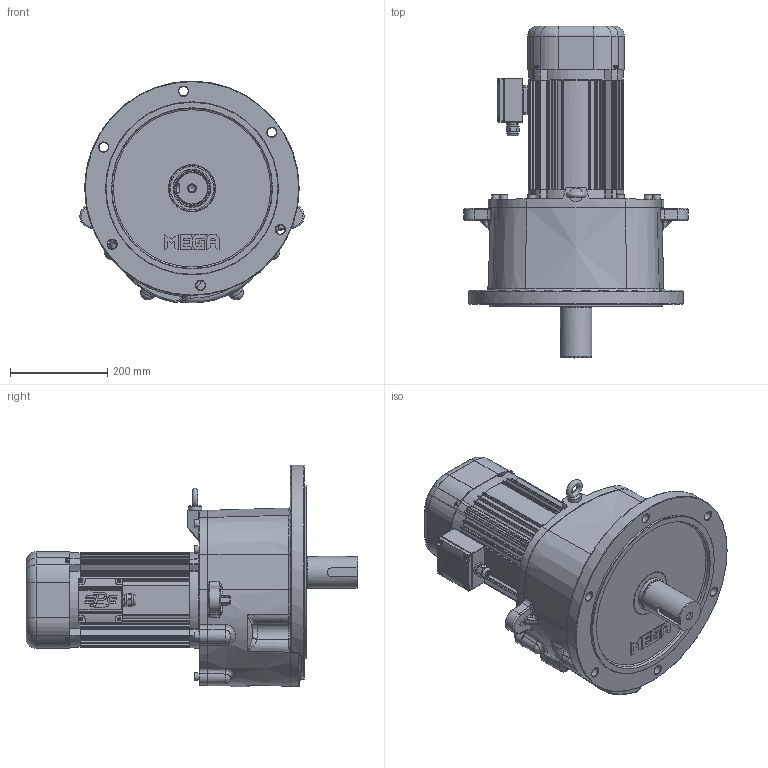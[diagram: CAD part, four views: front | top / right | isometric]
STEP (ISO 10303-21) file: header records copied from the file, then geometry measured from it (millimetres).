
FILE_DESCRIPTION(/* description */ (''),/* implementation_level */ '2;1');
FILE_NAME(/* name */ 'Z:\동력 3D 파일\PMK235_2.2kW_Brake_3D.stp',/* time_stamp */ '2021-12-01T09:25:42+09:00',/* author */ ('jaebok'),/* organization */ (''),/* preprocessor_version */ 'ST-DEVELOPER v18.1',/* originating_system */ 'Autodesk Inventor 2022',/* authorisation */ '');
FILE_SCHEMA (('AUTOMOTIVE_DESIGN { 1 0 10303 214 3 1 1 }'));
Products named in the file (1): 부품13
Bounding box: 459.83 x 681.1 x 455.2 mm (x, y, z)
Volume: 14496552.5 mm3; surface area: 2021280 mm2
Topology: 1 solids, 33 shells, 2982 faces, 7498 edges, 4508 vertices
Faces by surface type: plane 1002, cylinder 869, bspline 527, torus 258, cone 209, sphere 117
Full cylindrical faces by diameter (mm): 3.242 x4, 3.25 x1, 3.6 x4, 4 x21, 5 x13, 6 x5, 6.647 x4, 7 x8, 8 x5, 8.376 x1, 9 x4, 10 x9, 10.106 x11, 12 x9, 12.5 x1, 13 x8, 13.835 x1, 15 x1, 16 x8, 19 x6, 20 x2, 21 x1, 23.6 x1, 24 x1, 25 x1, 28 x1, 36 x1, 48 x1, 50 x1, 55 x1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
Entity records: 116502 total; most frequent: CARTESIAN_POINT 44718, ORIENTED_EDGE 14610, DIRECTION 14373, EDGE_CURVE 7305, AXIS2_PLACEMENT_3D 5745, VERTEX_POINT 4506, EDGE_LOOP 3229, CIRCLE 3153
